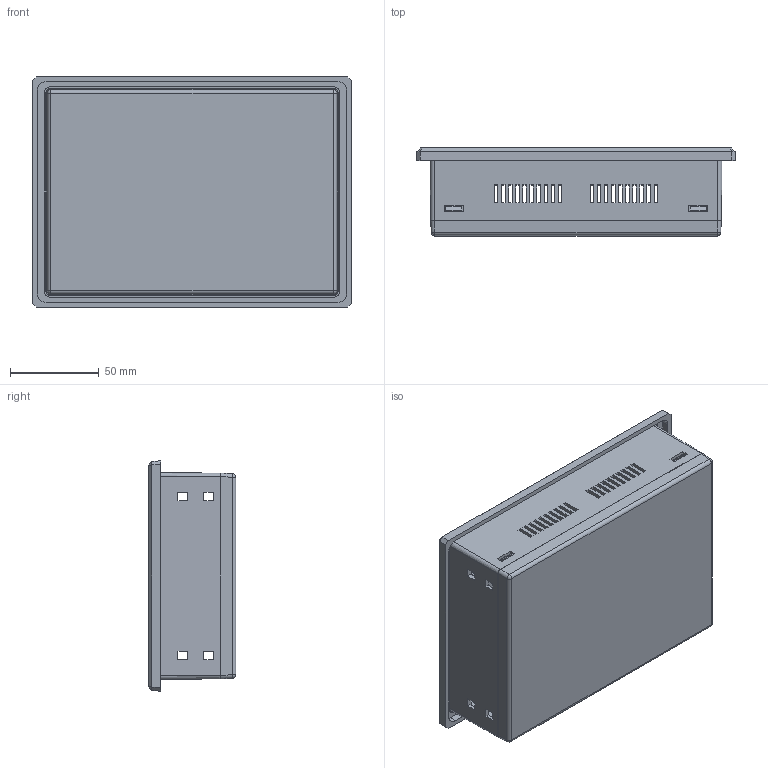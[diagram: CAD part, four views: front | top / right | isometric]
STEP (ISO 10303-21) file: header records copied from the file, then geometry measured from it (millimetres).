
FILE_DESCRIPTION (( 'STEP AP203' ), '1' );
FILE_NAME ('OP-300-K.STEP', '2023-01-17T13:04:05', ( '' ), ( '' ), 'SwSTEP 2.0', 'SolidWorks 2021', '' );
FILE_SCHEMA (( 'CONFIG_CONTROL_DESIGN' ));
Length unit declared in the file: millimetre
Products named in the file (3): OP-300-K; OP-300-P2_a㍾k; OP-300-P-1-G-0-11794
Assembly tree (2 placements, depth 2):
  OP-300-K
    OP-300-P2_a㍾k
    OP-300-P-1-G-0-11794
Bounding box: 179.7 x 49.4 x 129.7 mm (x, y, z)
Volume: 167817.9 mm3; surface area: 149467.9 mm2
Topology: 6 solids, 6 shells, 1064 faces, 3168 edges, 2092 vertices
Faces by surface type: cylinder 496, plane 476, cone 60, bspline 28, sphere 4
Entity records: 65769 total; most frequent: CARTESIAN_POINT 39557, ORIENTED_EDGE 6328, DIRECTION 4478, EDGE_CURVE 3164, VERTEX_POINT 2092, LINE 1988, VECTOR 1988, AXIS2_PLACEMENT_3D 1245
